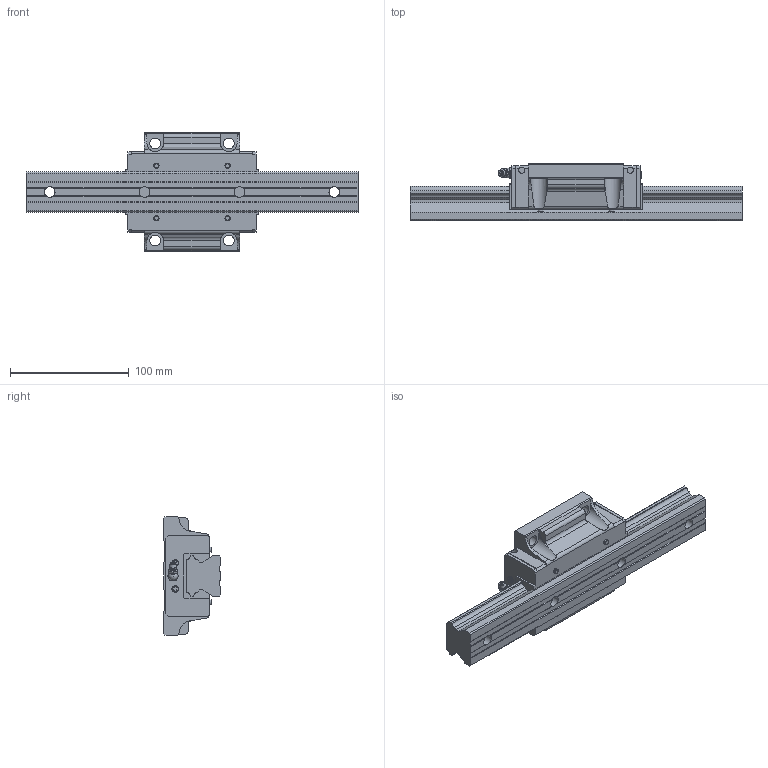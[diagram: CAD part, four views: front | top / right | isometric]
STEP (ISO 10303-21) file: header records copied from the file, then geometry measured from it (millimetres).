
FILE_DESCRIPTION(/* description */ ('STEP AP203'),/* implementation_level */ '2;1');
FILE_NAME(/* name */ 'HSR35M1B1SS-280L_G20_0_B-M6F_84_0_0_0',/* time_stamp */ '2024-05-23T06:14:23+02:00',/* author */ ('License CC BY-ND 4.0'),/* organization */ ('CADENAS'),/* preprocessor_version */ 'ST-DEVELOPER v19.3',/* originating_system */ 'PARTsolutions',/* authorisation */ ' ');
FILE_SCHEMA (('CONFIG_CONTROL_DESIGN'));
Length unit declared in the file: millimetre
Products named in the file (4): HSR35M1B1SS-280L_G20_0_B-M6F_84_0_0_0; HSR35M1B128020 Rail; HSR35M1BSSB-M6F Slider; hsr_ftht_B-M6F_grease_nipple_joint
Assembly tree (3 placements, depth 2):
  HSR35M1B1SS-280L_G20_0_B-M6F_84_0_0_0
    HSR35M1B128020 Rail
    HSR35M1BSSB-M6F Slider
    hsr_ftht_B-M6F_grease_nipple_joint
Bounding box: 280 x 48 x 100 mm (x, y, z)
Volume: 496913.8 mm3; surface area: 82667.6 mm2
Topology: 3 solids, 3 shells, 302 faces, 822 edges, 539 vertices
Faces by surface type: plane 222, cylinder 54, cone 13, torus 10, sphere 3
Full cylindrical faces by diameter (mm): 4.369 x4, 4.917 x2, 5.2 x4, 5.7 x4, 6 x1, 8 x1, 9 x8, 14 x4
Entity records: 9317 total; most frequent: CARTESIAN_POINT 1757, ORIENTED_EDGE 1516, DIRECTION 1508, EDGE_CURVE 758, LINE 548, VECTOR 548, VERTEX_POINT 525, AXIS2_PLACEMENT_3D 480
